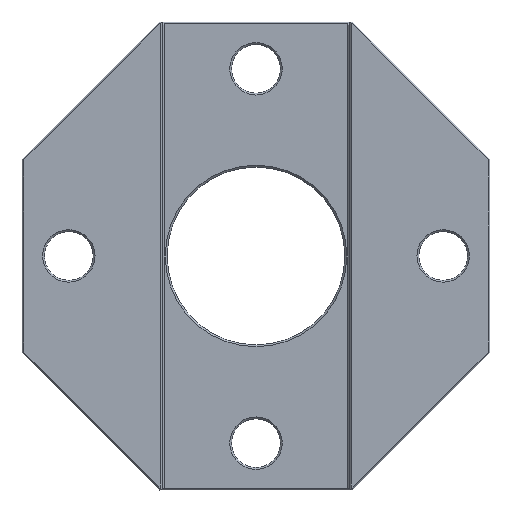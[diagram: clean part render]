
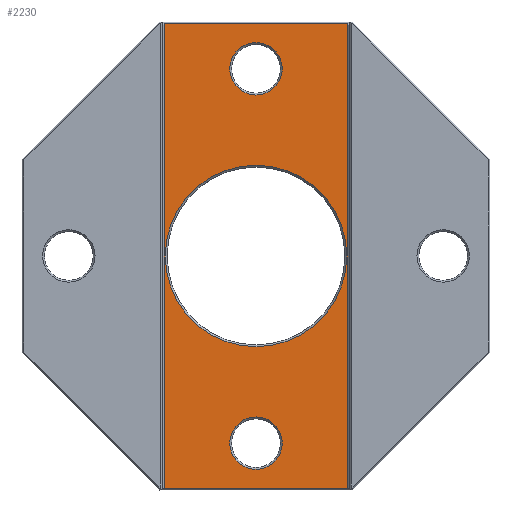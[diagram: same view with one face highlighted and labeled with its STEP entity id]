
A CAD part, top view. The second image highlights one B-rep face of the part: STEP entity #2230.
In plain terms, the highlighted planar face has unit normal (0, 0, 1).
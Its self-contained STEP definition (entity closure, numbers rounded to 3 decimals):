
#44 = EDGE_CURVE ( 'NONE', #1929, #1283, #843, .T. ) ;
#58 = EDGE_CURVE ( 'NONE', #860, #692, #2413, .T. ) ;
#71 = ORIENTED_EDGE ( 'NONE', *, *, #1580, .T. ) ;
#97 = DIRECTION ( 'NONE',  ( -1., 0., 0. ) ) ;
#107 = ORIENTED_EDGE ( 'NONE', *, *, #2980, .T. ) ;
#115 = CARTESIAN_POINT ( 'NONE',  ( -0.516, 0., -2. ) ) ;
#131 = AXIS2_PLACEMENT_3D ( 'NONE', #1477, #2253, #3313 ) ;
#161 = CARTESIAN_POINT ( 'NONE',  ( -10.416, -24.8, -2. ) ) ;
#200 = CARTESIAN_POINT ( 'NONE',  ( -10.316, -24.7, -2. ) ) ;
#224 = CARTESIAN_POINT ( 'NONE',  ( -10.616, 24.8, -2. ) ) ;
#242 = ORIENTED_EDGE ( 'NONE', *, *, #2006, .T. ) ;
#249 = DIRECTION ( 'NONE',  ( -1., 0., 0. ) ) ;
#254 = VERTEX_POINT ( 'NONE', #1724 ) ;
#264 = DIRECTION ( 'NONE',  ( -0.707, -0.707, 0. ) ) ;
#304 = CARTESIAN_POINT ( 'NONE',  ( -0.516, -20., -2. ) ) ;
#391 = VERTEX_POINT ( 'NONE', #2250 ) ;
#411 = ORIENTED_EDGE ( 'NONE', *, *, #2772, .T. ) ;
#412 = DIRECTION ( 'NONE',  ( 0., 0., -1. ) ) ;
#551 = DIRECTION ( 'NONE',  ( -1., 0., 0. ) ) ;
#594 = VERTEX_POINT ( 'NONE', #2467 ) ;
#617 = VECTOR ( 'NONE', #264, 1000. ) ;
#657 = VECTOR ( 'NONE', #1101, 1000. ) ;
#692 = VERTEX_POINT ( 'NONE', #1720 ) ;
#710 = CARTESIAN_POINT ( 'NONE',  ( -0.516, 20., -2. ) ) ;
#711 = CARTESIAN_POINT ( 'NONE',  ( -0.516, 0., -2. ) ) ;
#790 = LINE ( 'NONE', #2628, #617 ) ;
#813 = LINE ( 'NONE', #2134, #657 ) ;
#843 = CIRCLE ( 'NONE', #131, 2.8 ) ;
#852 = EDGE_CURVE ( 'NONE', #254, #3369, #2402, .T. ) ;
#860 = VERTEX_POINT ( 'NONE', #1611 ) ;
#916 = EDGE_CURVE ( 'NONE', #3369, #1881, #790, .T. ) ;
#943 = VECTOR ( 'NONE', #2091, 1000. ) ;
#949 = DIRECTION ( 'NONE',  ( -1., 0., 0. ) ) ;
#963 = ORIENTED_EDGE ( 'NONE', *, *, #1246, .T. ) ;
#970 = AXIS2_PLACEMENT_3D ( 'NONE', #304, #1693, #2432 ) ;
#988 = DIRECTION ( 'NONE',  ( -0.707, 0.707, 0. ) ) ;
#1058 = CARTESIAN_POINT ( 'NONE',  ( -0.516, -20., -2. ) ) ;
#1090 = CARTESIAN_POINT ( 'NONE',  ( 9.284, 24.8, -2. ) ) ;
#1101 = DIRECTION ( 'NONE',  ( 1., 0., 0. ) ) ;
#1246 = EDGE_CURVE ( 'NONE', #692, #254, #2565, .T. ) ;
#1283 = VERTEX_POINT ( 'NONE', #2879 ) ;
#1386 = AXIS2_PLACEMENT_3D ( 'NONE', #115, #412, #949 ) ;
#1392 = VECTOR ( 'NONE', #2004, 1000. ) ;
#1397 = FACE_BOUND ( 'NONE', #2557, .T. ) ;
#1420 = EDGE_CURVE ( 'NONE', #2145, #594, #2147, .T. ) ;
#1446 = CIRCLE ( 'NONE', #1884, 2.8 ) ;
#1477 = CARTESIAN_POINT ( 'NONE',  ( -0.516, 20., -2. ) ) ;
#1496 = DIRECTION ( 'NONE',  ( 0., 0., -1. ) ) ;
#1536 = LINE ( 'NONE', #2576, #1892 ) ;
#1561 = DIRECTION ( 'NONE',  ( 0., 0., -1. ) ) ;
#1568 = DIRECTION ( 'NONE',  ( -1., 0., 0. ) ) ;
#1580 = EDGE_CURVE ( 'NONE', #1283, #1929, #1446, .T. ) ;
#1584 = ORIENTED_EDGE ( 'NONE', *, *, #58, .T. ) ;
#1593 = AXIS2_PLACEMENT_3D ( 'NONE', #711, #1496, #2808 ) ;
#1611 = CARTESIAN_POINT ( 'NONE',  ( 9.284, -24.7, -2. ) ) ;
#1693 = DIRECTION ( 'NONE',  ( 0., 0., -1. ) ) ;
#1720 = CARTESIAN_POINT ( 'NONE',  ( 9.284, 24.8, -2. ) ) ;
#1724 = CARTESIAN_POINT ( 'NONE',  ( -10.316, 24.8, -2. ) ) ;
#1756 = ORIENTED_EDGE ( 'NONE', *, *, #852, .T. ) ;
#1779 = ORIENTED_EDGE ( 'NONE', *, *, #3235, .T. ) ;
#1816 = CIRCLE ( 'NONE', #2904, 2.8 ) ;
#1881 = VERTEX_POINT ( 'NONE', #161 ) ;
#1884 = AXIS2_PLACEMENT_3D ( 'NONE', #710, #1561, #249 ) ;
#1892 = VECTOR ( 'NONE', #988, 1000. ) ;
#1901 = EDGE_LOOP ( 'NONE', ( #411, #2876 ) ) ;
#1929 = VERTEX_POINT ( 'NONE', #1964 ) ;
#1930 = FACE_BOUND ( 'NONE', #1901, .T. ) ;
#1963 = PLANE ( 'NONE',  #2793 ) ;
#1964 = CARTESIAN_POINT ( 'NONE',  ( 2.284, 20., -2. ) ) ;
#1998 = VERTEX_POINT ( 'NONE', #2304 ) ;
#2004 = DIRECTION ( 'NONE',  ( 0., 1., 0. ) ) ;
#2006 = EDGE_CURVE ( 'NONE', #391, #860, #1536, .T. ) ;
#2023 = CIRCLE ( 'NONE', #970, 2.8 ) ;
#2034 = FACE_OUTER_BOUND ( 'NONE', #2354, .T. ) ;
#2091 = DIRECTION ( 'NONE',  ( 0., -1., 0. ) ) ;
#2134 = CARTESIAN_POINT ( 'NONE',  ( 9.584, -24.8, -2. ) ) ;
#2145 = VERTEX_POINT ( 'NONE', #2948 ) ;
#2147 = CIRCLE ( 'NONE', #1386, 9.7 ) ;
#2158 = VERTEX_POINT ( 'NONE', #2629 ) ;
#2160 = ORIENTED_EDGE ( 'NONE', *, *, #44, .T. ) ;
#2230 = ADVANCED_FACE ( 'NONE', ( #2716, #1930, #1397, #2034 ), #1963, .F. ) ;
#2250 = CARTESIAN_POINT ( 'NONE',  ( 9.384, -24.8, -2. ) ) ;
#2253 = DIRECTION ( 'NONE',  ( 0., 0., -1. ) ) ;
#2304 = CARTESIAN_POINT ( 'NONE',  ( 2.284, -20., -2. ) ) ;
#2354 = EDGE_LOOP ( 'NONE', ( #2524, #107, #242, #1584, #963, #1756 ) ) ;
#2402 = LINE ( 'NONE', #2928, #943 ) ;
#2413 = LINE ( 'NONE', #1090, #1392 ) ;
#2418 = EDGE_CURVE ( 'NONE', #1998, #2158, #2023, .T. ) ;
#2432 = DIRECTION ( 'NONE',  ( -1., 0., 0. ) ) ;
#2442 = CARTESIAN_POINT ( 'NONE',  ( -10.516, 25., -2. ) ) ;
#2467 = CARTESIAN_POINT ( 'NONE',  ( 9.184, 0., -2. ) ) ;
#2502 = ORIENTED_EDGE ( 'NONE', *, *, #2418, .T. ) ;
#2524 = ORIENTED_EDGE ( 'NONE', *, *, #916, .T. ) ;
#2557 = EDGE_LOOP ( 'NONE', ( #2160, #71 ) ) ;
#2565 = LINE ( 'NONE', #224, #3050 ) ;
#2576 = CARTESIAN_POINT ( 'NONE',  ( -25.466, 10.05, -2. ) ) ;
#2628 = CARTESIAN_POINT ( 'NONE',  ( 14.434, 0.05, -2. ) ) ;
#2629 = CARTESIAN_POINT ( 'NONE',  ( -3.316, -20., -2. ) ) ;
#2716 = FACE_BOUND ( 'NONE', #2998, .T. ) ;
#2738 = CIRCLE ( 'NONE', #1593, 9.7 ) ;
#2772 = EDGE_CURVE ( 'NONE', #594, #2145, #2738, .T. ) ;
#2793 = AXIS2_PLACEMENT_3D ( 'NONE', #2442, #3013, #97 ) ;
#2808 = DIRECTION ( 'NONE',  ( -1., 0., 0. ) ) ;
#2876 = ORIENTED_EDGE ( 'NONE', *, *, #1420, .T. ) ;
#2879 = CARTESIAN_POINT ( 'NONE',  ( -3.316, 20., -2. ) ) ;
#2904 = AXIS2_PLACEMENT_3D ( 'NONE', #1058, #3163, #551 ) ;
#2928 = CARTESIAN_POINT ( 'NONE',  ( -10.316, -24.9, -2. ) ) ;
#2948 = CARTESIAN_POINT ( 'NONE',  ( -10.216, 0., -2. ) ) ;
#2980 = EDGE_CURVE ( 'NONE', #1881, #391, #813, .T. ) ;
#2998 = EDGE_LOOP ( 'NONE', ( #2502, #1779 ) ) ;
#3013 = DIRECTION ( 'NONE',  ( 0., 0., -1. ) ) ;
#3050 = VECTOR ( 'NONE', #1568, 1000. ) ;
#3163 = DIRECTION ( 'NONE',  ( 0., 0., -1. ) ) ;
#3235 = EDGE_CURVE ( 'NONE', #2158, #1998, #1816, .T. ) ;
#3313 = DIRECTION ( 'NONE',  ( -1., 0., 0. ) ) ;
#3369 = VERTEX_POINT ( 'NONE', #200 ) ;
